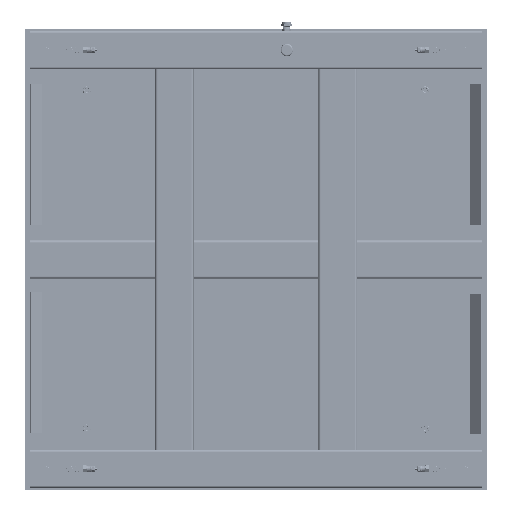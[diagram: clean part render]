
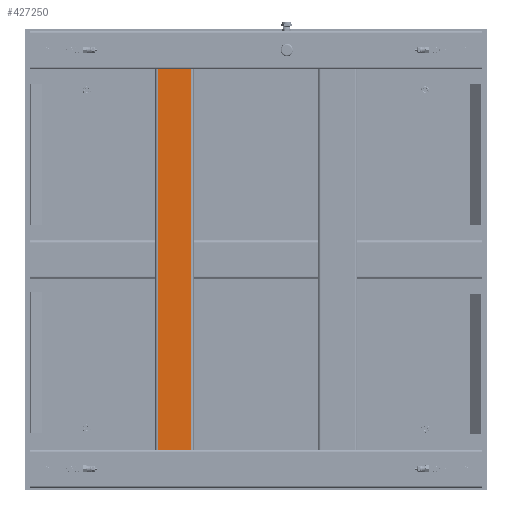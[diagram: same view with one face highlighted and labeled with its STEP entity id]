
A CAD part, front view. The second image highlights one B-rep face of the part: STEP entity #427250.
In plain terms, the highlighted planar face has unit normal (0.001, -1, 0.001).
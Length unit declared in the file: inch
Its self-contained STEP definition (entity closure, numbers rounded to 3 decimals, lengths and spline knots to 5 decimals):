
#17816 = LINE ( 'NONE', #745101, #119213 ) ;
#34589 = CARTESIAN_POINT ( 'NONE',  ( 49.3125, 0., -2.1875 ) ) ;
#40235 = DIRECTION ( 'NONE',  ( 1., 0., 0. ) ) ;
#55945 = DIRECTION ( 'NONE',  ( 0., 0., -1. ) ) ;
#68180 = VERTEX_POINT ( 'NONE', #677703 ) ;
#93908 = ORIENTED_EDGE ( 'NONE', *, *, #214619, .T. ) ;
#119213 = VECTOR ( 'NONE', #40235, 39.37008 ) ;
#214619 = EDGE_CURVE ( 'NONE', #580218, #689717, #17816, .T. ) ;
#218605 = DIRECTION ( 'NONE',  ( 0., 0., -1. ) ) ;
#225121 = VECTOR ( 'NONE', #55945, 39.37008 ) ;
#229466 = EDGE_CURVE ( 'NONE', #508495, #689717, #617701, .T. ) ;
#241413 = CARTESIAN_POINT ( 'NONE',  ( 49.3125, 0., 2.1875 ) ) ;
#247531 = DIRECTION ( 'NONE',  ( 0., 0., -1. ) ) ;
#277570 = CARTESIAN_POINT ( 'NONE',  ( -0.1875, 0., 2.1875 ) ) ;
#323264 = EDGE_CURVE ( 'NONE', #68180, #580218, #326138, .T. ) ;
#326138 = LINE ( 'NONE', #590888, #225121 ) ;
#350453 = EDGE_CURVE ( 'NONE', #68180, #508495, #624341, .T. ) ;
#365721 = FACE_OUTER_BOUND ( 'NONE', #728313, .T. ) ;
#370937 = CARTESIAN_POINT ( 'NONE',  ( -0.1875, 0., -2.1875 ) ) ;
#419766 = PLANE ( 'NONE',  #763431 ) ;
#426848 = ORIENTED_EDGE ( 'NONE', *, *, #229466, .F. ) ;
#427250 = ADVANCED_FACE ( 'NONE', ( #365721 ), #419766, .T. ) ;
#506962 = VECTOR ( 'NONE', #218605, 39.37008 ) ;
#508495 = VERTEX_POINT ( 'NONE', #241413 ) ;
#540466 = CARTESIAN_POINT ( 'NONE',  ( -0.1875, 0., 2.1875 ) ) ;
#567994 = CARTESIAN_POINT ( 'NONE',  ( 49.3125, 0., 2.1875 ) ) ;
#580218 = VERTEX_POINT ( 'NONE', #370937 ) ;
#590888 = CARTESIAN_POINT ( 'NONE',  ( -0.1875, 0., 2.1875 ) ) ;
#599717 = DIRECTION ( 'NONE',  ( 0., -1., 0. ) ) ;
#617701 = LINE ( 'NONE', #567994, #506962 ) ;
#619531 = DIRECTION ( 'NONE',  ( 1., 0., 0. ) ) ;
#624341 = LINE ( 'NONE', #277570, #661104 ) ;
#628220 = ORIENTED_EDGE ( 'NONE', *, *, #323264, .T. ) ;
#661104 = VECTOR ( 'NONE', #619531, 39.37008 ) ;
#677703 = CARTESIAN_POINT ( 'NONE',  ( -0.1875, 0., 2.1875 ) ) ;
#689717 = VERTEX_POINT ( 'NONE', #34589 ) ;
#690459 = ORIENTED_EDGE ( 'NONE', *, *, #350453, .F. ) ;
#728313 = EDGE_LOOP ( 'NONE', ( #426848, #690459, #628220, #93908 ) ) ;
#745101 = CARTESIAN_POINT ( 'NONE',  ( -0.1875, 0., -2.1875 ) ) ;
#763431 = AXIS2_PLACEMENT_3D ( 'NONE', #540466, #599717, #247531 ) ;
